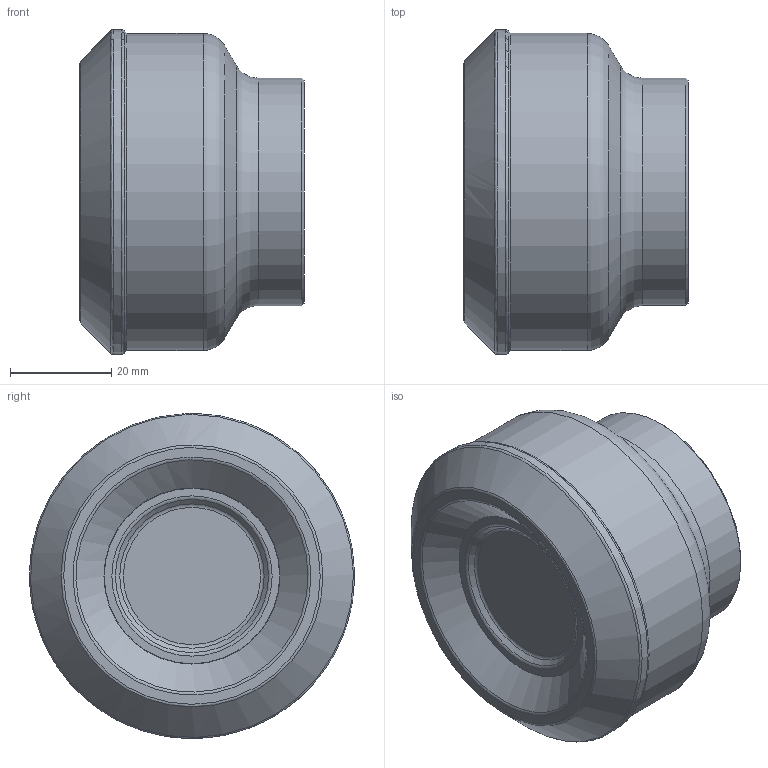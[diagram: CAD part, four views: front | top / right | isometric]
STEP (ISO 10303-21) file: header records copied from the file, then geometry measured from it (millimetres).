
FILE_DESCRIPTION(/* description */ (''),/* implementation_level */ '2;1');
FILE_NAME(/* name */ 'FMA01-2.00''''-A0.75''''-SE12-05.stp',/* time_stamp */ '2022-03-29T11:19:29+08:00',/* author */ (''),/* organization */ (''),/* preprocessor_version */ 'ST-DEVELOPER v16.7',/* originating_system */ 'SIEMENS PLM Software NX 12.0',/* authorisation */ '');
FILE_SCHEMA (('AUTOMOTIVE_DESIGN { 1 0 10303 214 3 1 1 1 }'));
Length unit declared in the file: millimetre
Products named in the file (1): heyu23945552hh25
Bounding box: 44.45 x 64.36 x 64.37 mm (x, y, z)
Volume: 105397.8 mm3; surface area: 13006.4 mm2
Topology: 1 solids, 1 shells, 22 faces, 52 edges, 34 vertices
Faces by surface type: revolution 8, torus 5, plane 4, cone 3, cylinder 2
Full cylindrical faces by diameter (mm): 45 x1, 62.8 x1
Entity records: 494 total; most frequent: DIRECTION 92, CARTESIAN_POINT 73, EDGE_LOOP 42, ORIENTED_EDGE 42, FACE_BOUND 40, AXIS2_PLACEMENT_3D 40, CIRCLE 25, ADVANCED_FACE 22
